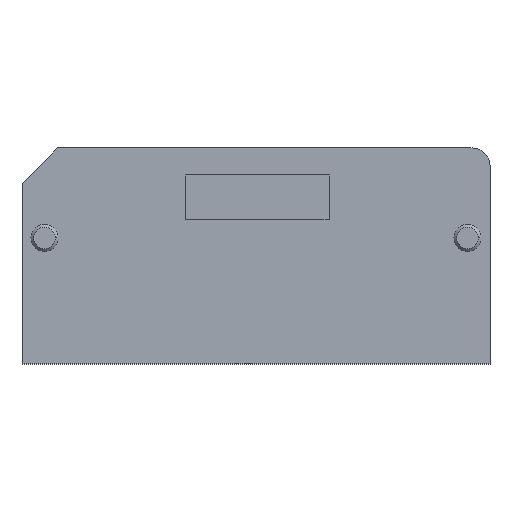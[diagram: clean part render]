
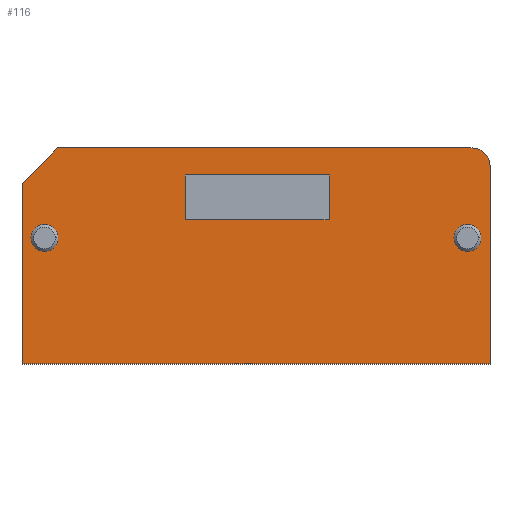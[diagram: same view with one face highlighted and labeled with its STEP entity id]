
A CAD part, top view. The second image highlights one B-rep face of the part: STEP entity #116.
In plain terms, the highlighted planar face has unit normal (0, 0, 1).
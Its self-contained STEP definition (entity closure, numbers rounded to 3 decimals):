
#116 = ADVANCED_FACE('',(#117,#221,#257,#293),#131,.T.);
#117 = FACE_BOUND('',#118,.F.);
#118 = EDGE_LOOP('',(#119,#142,#158,#174,#191,#207));
#119 = ORIENTED_EDGE('',*,*,#120,.F.);
#120 = EDGE_CURVE('',#121,#123,#125,.T.);
#121 = VERTEX_POINT('',#122);
#122 = CARTESIAN_POINT('',(-26.95,-3.9,0.));
#123 = VERTEX_POINT('',#124);
#124 = CARTESIAN_POINT('',(-26.95,-24.,0.));
#125 = SURFACE_CURVE('',#126,(#130),.PCURVE_S1.);
#126 = LINE('',#127,#128);
#127 = CARTESIAN_POINT('',(-26.95,-3.9,0.));
#128 = VECTOR('',#129,1.);
#129 = DIRECTION('',(0.,-1.,0.));
#130 = PCURVE('',#131,#136);
#131 = PLANE('',#132);
#132 = AXIS2_PLACEMENT_3D('',#133,#134,#135);
#133 = CARTESIAN_POINT('',(0.,0.,0.));
#134 = DIRECTION('',(0.,0.,1.));
#135 = DIRECTION('',(1.,0.,0.));
#136 = DEFINITIONAL_REPRESENTATION('',(#137),#141);
#137 = LINE('',#138,#139);
#138 = CARTESIAN_POINT('',(-26.95,-3.9));
#139 = VECTOR('',#140,1.);
#140 = DIRECTION('',(0.,-1.));
#141 = ( GEOMETRIC_REPRESENTATION_CONTEXT(2) 
PARAMETRIC_REPRESENTATION_CONTEXT() REPRESENTATION_CONTEXT('2D SPACE',''
  ) );
#142 = ORIENTED_EDGE('',*,*,#143,.F.);
#143 = EDGE_CURVE('',#144,#121,#146,.T.);
#144 = VERTEX_POINT('',#145);
#145 = CARTESIAN_POINT('',(-23.05,0.,0.)
  );
#146 = SURFACE_CURVE('',#147,(#151),.PCURVE_S1.);
#147 = LINE('',#148,#149);
#148 = CARTESIAN_POINT('',(-23.05,0.,0.)
  );
#149 = VECTOR('',#150,1.);
#150 = DIRECTION('',(-0.707,-0.707,0.));
#151 = PCURVE('',#131,#152);
#152 = DEFINITIONAL_REPRESENTATION('',(#153),#157);
#153 = LINE('',#154,#155);
#154 = CARTESIAN_POINT('',(-23.05,0.));
#155 = VECTOR('',#156,1.);
#156 = DIRECTION('',(-0.707,-0.707));
#157 = ( GEOMETRIC_REPRESENTATION_CONTEXT(2) 
PARAMETRIC_REPRESENTATION_CONTEXT() REPRESENTATION_CONTEXT('2D SPACE',''
  ) );
#158 = ORIENTED_EDGE('',*,*,#159,.F.);
#159 = EDGE_CURVE('',#160,#144,#162,.T.);
#160 = VERTEX_POINT('',#161);
#161 = CARTESIAN_POINT('',(23.05,0.,0.));
#162 = SURFACE_CURVE('',#163,(#167),.PCURVE_S1.);
#163 = LINE('',#164,#165);
#164 = CARTESIAN_POINT('',(23.05,0.,0.));
#165 = VECTOR('',#166,1.);
#166 = DIRECTION('',(-1.,0.,0.));
#167 = PCURVE('',#131,#168);
#168 = DEFINITIONAL_REPRESENTATION('',(#169),#173);
#169 = LINE('',#170,#171);
#170 = CARTESIAN_POINT('',(23.05,0.));
#171 = VECTOR('',#172,1.);
#172 = DIRECTION('',(-1.,0.));
#173 = ( GEOMETRIC_REPRESENTATION_CONTEXT(2) 
PARAMETRIC_REPRESENTATION_CONTEXT() REPRESENTATION_CONTEXT('2D SPACE',''
  ) );
#174 = ORIENTED_EDGE('',*,*,#175,.F.);
#175 = EDGE_CURVE('',#176,#160,#178,.T.);
#176 = VERTEX_POINT('',#177);
#177 = CARTESIAN_POINT('',(25.05,-2.,0.));
#178 = SURFACE_CURVE('',#179,(#184),.PCURVE_S1.);
#179 = CIRCLE('',#180,2.);
#180 = AXIS2_PLACEMENT_3D('',#181,#182,#183);
#181 = CARTESIAN_POINT('',(23.05,-2.,0.));
#182 = DIRECTION('',(0.,0.,1.));
#183 = DIRECTION('',(1.,0.,0.));
#184 = PCURVE('',#131,#185);
#185 = DEFINITIONAL_REPRESENTATION('',(#186),#190);
#186 = CIRCLE('',#187,2.);
#187 = AXIS2_PLACEMENT_2D('',#188,#189);
#188 = CARTESIAN_POINT('',(23.05,-2.));
#189 = DIRECTION('',(1.,0.));
#190 = ( GEOMETRIC_REPRESENTATION_CONTEXT(2) 
PARAMETRIC_REPRESENTATION_CONTEXT() REPRESENTATION_CONTEXT('2D SPACE',''
  ) );
#191 = ORIENTED_EDGE('',*,*,#192,.F.);
#192 = EDGE_CURVE('',#193,#176,#195,.T.);
#193 = VERTEX_POINT('',#194);
#194 = CARTESIAN_POINT('',(25.05,-24.,0.));
#195 = SURFACE_CURVE('',#196,(#200),.PCURVE_S1.);
#196 = LINE('',#197,#198);
#197 = CARTESIAN_POINT('',(25.05,-24.,0.));
#198 = VECTOR('',#199,1.);
#199 = DIRECTION('',(0.,1.,0.));
#200 = PCURVE('',#131,#201);
#201 = DEFINITIONAL_REPRESENTATION('',(#202),#206);
#202 = LINE('',#203,#204);
#203 = CARTESIAN_POINT('',(25.05,-24.));
#204 = VECTOR('',#205,1.);
#205 = DIRECTION('',(0.,1.));
#206 = ( GEOMETRIC_REPRESENTATION_CONTEXT(2) 
PARAMETRIC_REPRESENTATION_CONTEXT() REPRESENTATION_CONTEXT('2D SPACE',''
  ) );
#207 = ORIENTED_EDGE('',*,*,#208,.F.);
#208 = EDGE_CURVE('',#123,#193,#209,.T.);
#209 = SURFACE_CURVE('',#210,(#214),.PCURVE_S1.);
#210 = LINE('',#211,#212);
#211 = CARTESIAN_POINT('',(-26.95,-24.,0.));
#212 = VECTOR('',#213,1.);
#213 = DIRECTION('',(1.,0.,0.));
#214 = PCURVE('',#131,#215);
#215 = DEFINITIONAL_REPRESENTATION('',(#216),#220);
#216 = LINE('',#217,#218);
#217 = CARTESIAN_POINT('',(-26.95,-24.));
#218 = VECTOR('',#219,1.);
#219 = DIRECTION('',(1.,0.));
#220 = ( GEOMETRIC_REPRESENTATION_CONTEXT(2) 
PARAMETRIC_REPRESENTATION_CONTEXT() REPRESENTATION_CONTEXT('2D SPACE',''
  ) );
#221 = FACE_BOUND('',#222,.F.);
#222 = EDGE_LOOP('',(#223,#242));
#223 = ORIENTED_EDGE('',*,*,#224,.T.);
#224 = EDGE_CURVE('',#225,#227,#229,.T.);
#225 = VERTEX_POINT('',#226);
#226 = CARTESIAN_POINT('',(24.042,-10.,0.));
#227 = VERTEX_POINT('',#228);
#228 = CARTESIAN_POINT('',(21.042,-10.,0.));
#229 = SURFACE_CURVE('',#230,(#235),.PCURVE_S1.);
#230 = CIRCLE('',#231,1.5);
#231 = AXIS2_PLACEMENT_3D('',#232,#233,#234);
#232 = CARTESIAN_POINT('',(22.542,-10.,0.));
#233 = DIRECTION('',(0.,0.,1.));
#234 = DIRECTION('',(1.,0.,0.));
#235 = PCURVE('',#131,#236);
#236 = DEFINITIONAL_REPRESENTATION('',(#237),#241);
#237 = CIRCLE('',#238,1.5);
#238 = AXIS2_PLACEMENT_2D('',#239,#240);
#239 = CARTESIAN_POINT('',(22.542,-10.));
#240 = DIRECTION('',(1.,0.));
#241 = ( GEOMETRIC_REPRESENTATION_CONTEXT(2) 
PARAMETRIC_REPRESENTATION_CONTEXT() REPRESENTATION_CONTEXT('2D SPACE',''
  ) );
#242 = ORIENTED_EDGE('',*,*,#243,.T.);
#243 = EDGE_CURVE('',#227,#225,#244,.T.);
#244 = SURFACE_CURVE('',#245,(#250),.PCURVE_S1.);
#245 = CIRCLE('',#246,1.5);
#246 = AXIS2_PLACEMENT_3D('',#247,#248,#249);
#247 = CARTESIAN_POINT('',(22.542,-10.,0.));
#248 = DIRECTION('',(0.,0.,1.));
#249 = DIRECTION('',(-1.,0.,0.));
#250 = PCURVE('',#131,#251);
#251 = DEFINITIONAL_REPRESENTATION('',(#252),#256);
#252 = CIRCLE('',#253,1.5);
#253 = AXIS2_PLACEMENT_2D('',#254,#255);
#254 = CARTESIAN_POINT('',(22.542,-10.));
#255 = DIRECTION('',(-1.,0.));
#256 = ( GEOMETRIC_REPRESENTATION_CONTEXT(2) 
PARAMETRIC_REPRESENTATION_CONTEXT() REPRESENTATION_CONTEXT('2D SPACE',''
  ) );
#257 = FACE_BOUND('',#258,.F.);
#258 = EDGE_LOOP('',(#259,#278));
#259 = ORIENTED_EDGE('',*,*,#260,.T.);
#260 = EDGE_CURVE('',#261,#263,#265,.T.);
#261 = VERTEX_POINT('',#262);
#262 = CARTESIAN_POINT('',(-22.958,-10.,0.));
#263 = VERTEX_POINT('',#264);
#264 = CARTESIAN_POINT('',(-25.958,-10.,0.));
#265 = SURFACE_CURVE('',#266,(#271),.PCURVE_S1.);
#266 = CIRCLE('',#267,1.5);
#267 = AXIS2_PLACEMENT_3D('',#268,#269,#270);
#268 = CARTESIAN_POINT('',(-24.458,-10.,0.));
#269 = DIRECTION('',(0.,0.,1.));
#270 = DIRECTION('',(1.,0.,0.));
#271 = PCURVE('',#131,#272);
#272 = DEFINITIONAL_REPRESENTATION('',(#273),#277);
#273 = CIRCLE('',#274,1.5);
#274 = AXIS2_PLACEMENT_2D('',#275,#276);
#275 = CARTESIAN_POINT('',(-24.458,-10.));
#276 = DIRECTION('',(1.,0.));
#277 = ( GEOMETRIC_REPRESENTATION_CONTEXT(2) 
PARAMETRIC_REPRESENTATION_CONTEXT() REPRESENTATION_CONTEXT('2D SPACE',''
  ) );
#278 = ORIENTED_EDGE('',*,*,#279,.T.);
#279 = EDGE_CURVE('',#263,#261,#280,.T.);
#280 = SURFACE_CURVE('',#281,(#286),.PCURVE_S1.);
#281 = CIRCLE('',#282,1.5);
#282 = AXIS2_PLACEMENT_3D('',#283,#284,#285);
#283 = CARTESIAN_POINT('',(-24.458,-10.,0.));
#284 = DIRECTION('',(0.,0.,1.));
#285 = DIRECTION('',(-1.,0.,0.));
#286 = PCURVE('',#131,#287);
#287 = DEFINITIONAL_REPRESENTATION('',(#288),#292);
#288 = CIRCLE('',#289,1.5);
#289 = AXIS2_PLACEMENT_2D('',#290,#291);
#290 = CARTESIAN_POINT('',(-24.458,-10.));
#291 = DIRECTION('',(-1.,0.));
#292 = ( GEOMETRIC_REPRESENTATION_CONTEXT(2) 
PARAMETRIC_REPRESENTATION_CONTEXT() REPRESENTATION_CONTEXT('2D SPACE',''
  ) );
#293 = FACE_BOUND('',#294,.F.);
#294 = EDGE_LOOP('',(#295,#313,#329,#345));
#295 = ORIENTED_EDGE('',*,*,#296,.T.);
#296 = EDGE_CURVE('',#297,#299,#301,.T.);
#297 = VERTEX_POINT('',#298);
#298 = CARTESIAN_POINT('',(7.164,-3.001,0.));
#299 = VERTEX_POINT('',#300);
#300 = CARTESIAN_POINT('',(-8.836,-3.001,0.));
#301 = SURFACE_CURVE('',#302,(#306),.PCURVE_S1.);
#302 = LINE('',#303,#304);
#303 = CARTESIAN_POINT('',(7.164,-3.001,0.));
#304 = VECTOR('',#305,1.);
#305 = DIRECTION('',(-1.,0.,0.));
#306 = PCURVE('',#131,#307);
#307 = DEFINITIONAL_REPRESENTATION('',(#308),#312);
#308 = LINE('',#309,#310);
#309 = CARTESIAN_POINT('',(7.164,-3.001));
#310 = VECTOR('',#311,1.);
#311 = DIRECTION('',(-1.,0.));
#312 = ( GEOMETRIC_REPRESENTATION_CONTEXT(2) 
PARAMETRIC_REPRESENTATION_CONTEXT() REPRESENTATION_CONTEXT('2D SPACE',''
  ) );
#313 = ORIENTED_EDGE('',*,*,#314,.T.);
#314 = EDGE_CURVE('',#299,#315,#317,.T.);
#315 = VERTEX_POINT('',#316);
#316 = CARTESIAN_POINT('',(-8.836,-8.001,0.));
#317 = SURFACE_CURVE('',#318,(#322),.PCURVE_S1.);
#318 = LINE('',#319,#320);
#319 = CARTESIAN_POINT('',(-8.836,-3.001,0.));
#320 = VECTOR('',#321,1.);
#321 = DIRECTION('',(0.,-1.,0.));
#322 = PCURVE('',#131,#323);
#323 = DEFINITIONAL_REPRESENTATION('',(#324),#328);
#324 = LINE('',#325,#326);
#325 = CARTESIAN_POINT('',(-8.836,-3.001));
#326 = VECTOR('',#327,1.);
#327 = DIRECTION('',(0.,-1.));
#328 = ( GEOMETRIC_REPRESENTATION_CONTEXT(2) 
PARAMETRIC_REPRESENTATION_CONTEXT() REPRESENTATION_CONTEXT('2D SPACE',''
  ) );
#329 = ORIENTED_EDGE('',*,*,#330,.T.);
#330 = EDGE_CURVE('',#315,#331,#333,.T.);
#331 = VERTEX_POINT('',#332);
#332 = CARTESIAN_POINT('',(7.164,-8.001,0.));
#333 = SURFACE_CURVE('',#334,(#338),.PCURVE_S1.);
#334 = LINE('',#335,#336);
#335 = CARTESIAN_POINT('',(-8.836,-8.001,0.));
#336 = VECTOR('',#337,1.);
#337 = DIRECTION('',(1.,0.,0.));
#338 = PCURVE('',#131,#339);
#339 = DEFINITIONAL_REPRESENTATION('',(#340),#344);
#340 = LINE('',#341,#342);
#341 = CARTESIAN_POINT('',(-8.836,-8.001));
#342 = VECTOR('',#343,1.);
#343 = DIRECTION('',(1.,0.));
#344 = ( GEOMETRIC_REPRESENTATION_CONTEXT(2) 
PARAMETRIC_REPRESENTATION_CONTEXT() REPRESENTATION_CONTEXT('2D SPACE',''
  ) );
#345 = ORIENTED_EDGE('',*,*,#346,.T.);
#346 = EDGE_CURVE('',#331,#297,#347,.T.);
#347 = SURFACE_CURVE('',#348,(#352),.PCURVE_S1.);
#348 = LINE('',#349,#350);
#349 = CARTESIAN_POINT('',(7.164,-8.001,0.));
#350 = VECTOR('',#351,1.);
#351 = DIRECTION('',(0.,1.,0.));
#352 = PCURVE('',#131,#353);
#353 = DEFINITIONAL_REPRESENTATION('',(#354),#358);
#354 = LINE('',#355,#356);
#355 = CARTESIAN_POINT('',(7.164,-8.001));
#356 = VECTOR('',#357,1.);
#357 = DIRECTION('',(0.,1.));
#358 = ( GEOMETRIC_REPRESENTATION_CONTEXT(2) 
PARAMETRIC_REPRESENTATION_CONTEXT() REPRESENTATION_CONTEXT('2D SPACE',''
  ) );
